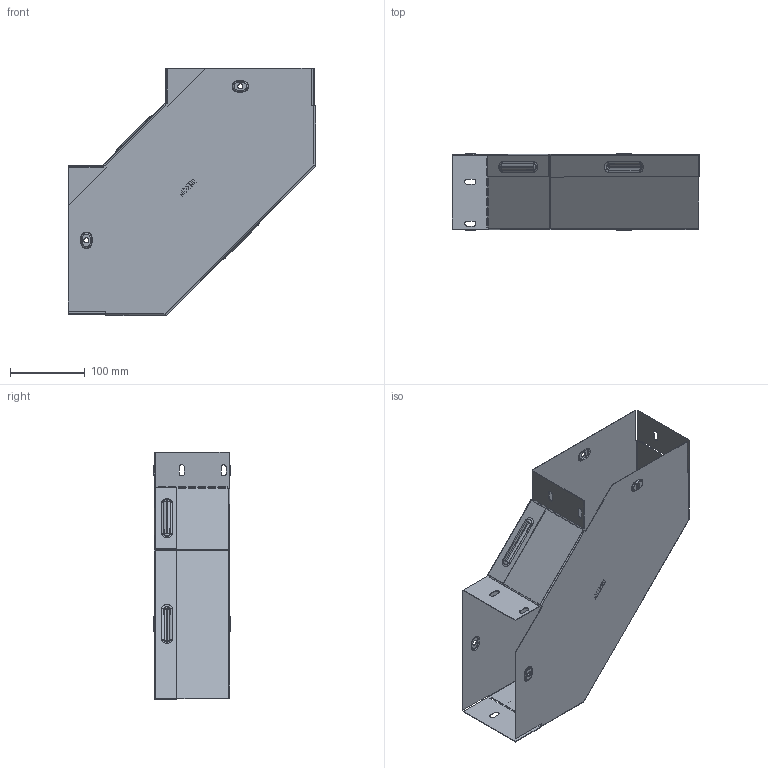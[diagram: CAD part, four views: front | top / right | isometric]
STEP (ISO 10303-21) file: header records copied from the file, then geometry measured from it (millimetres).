
FILE_DESCRIPTION (( 'STEP AP214' ), '1' );
FILE_NAME ('g90100200_捘.STEP', '2019-06-10T09:51:28', ( '砐錪賧瘔蠈錪 Windows' ), ( '' ), 'SwSTEP 2.0', 'SolidWorks 2018', '' );
FILE_SCHEMA (( 'AUTOMOTIVE_DESIGN' ));
Length unit declared in the file: millimetre
Products named in the file (1): g90100200_捘
Bounding box: 330.8 x 103.8 x 330.8 mm (x, y, z)
Volume: 188568.6 mm3; surface area: 475273.4 mm2
Topology: 2 solids, 2 shells, 604 faces, 1704 edges, 1104 vertices
Faces by surface type: plane 360, cylinder 154, torus 64, bspline 26
Entity records: 20841 total; most frequent: CARTESIAN_POINT 4889, ORIENTED_EDGE 3408, DIRECTION 3186, EDGE_CURVE 1704, VECTOR 1252, LINE 1252, VERTEX_POINT 1104, AXIS2_PLACEMENT_3D 967
